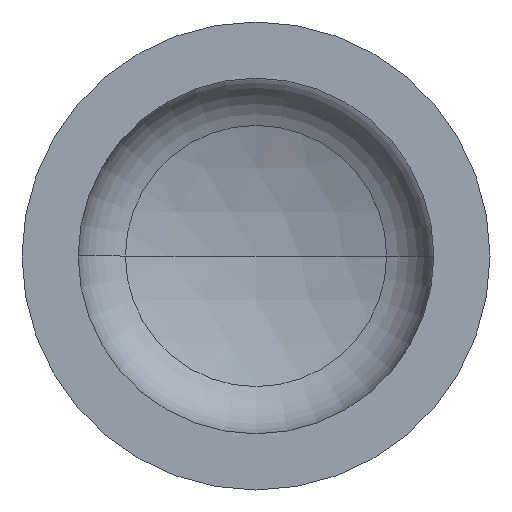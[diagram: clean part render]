
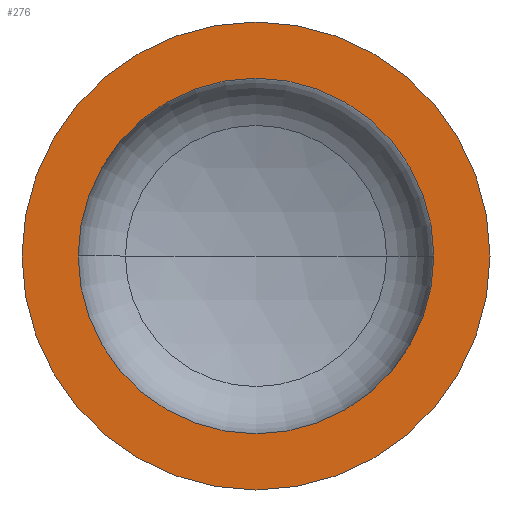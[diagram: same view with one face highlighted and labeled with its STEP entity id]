
A CAD part, front view. The second image highlights one B-rep face of the part: STEP entity #276.
In plain terms, the highlighted planar face has unit normal (0, -1, 0).
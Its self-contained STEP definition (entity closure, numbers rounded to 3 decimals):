
#1 = FACE_BOUND ( 'NONE', #34, .T. ) ;
#4 = EDGE_LOOP ( 'NONE', ( #87, #57 ) ) ;
#17 = ORIENTED_EDGE ( 'NONE', *, *, #257, .F. ) ;
#21 = ORIENTED_EDGE ( 'NONE', *, *, #411, .F. ) ;
#25 = VERTEX_POINT ( 'NONE', #371 ) ;
#34 = EDGE_LOOP ( 'NONE', ( #21, #17 ) ) ;
#57 = ORIENTED_EDGE ( 'NONE', *, *, #391, .T. ) ;
#65 = AXIS2_PLACEMENT_3D ( 'NONE', #112, #130, #133 ) ;
#80 = AXIS2_PLACEMENT_3D ( 'NONE', #129, #197, #321 ) ;
#81 = VERTEX_POINT ( 'NONE', #231 ) ;
#87 = ORIENTED_EDGE ( 'NONE', *, *, #364, .T. ) ;
#95 = VERTEX_POINT ( 'NONE', #245 ) ;
#96 = VERTEX_POINT ( 'NONE', #248 ) ;
#102 = AXIS2_PLACEMENT_3D ( 'NONE', #116, #118, #143 ) ;
#112 = CARTESIAN_POINT ( 'NONE',  ( -500., 0., 0. ) ) ;
#116 = CARTESIAN_POINT ( 'NONE',  ( 0., 0., 0. ) ) ;
#118 = DIRECTION ( 'NONE',  ( 0., -1., 0. ) ) ;
#125 = CARTESIAN_POINT ( 'NONE',  ( 0., 0., 0. ) ) ;
#128 = DIRECTION ( 'NONE',  ( 0., -1., 0. ) ) ;
#129 = CARTESIAN_POINT ( 'NONE',  ( 0., 0., 0. ) ) ;
#130 = DIRECTION ( 'NONE',  ( 0., 1., 0. ) ) ;
#133 = DIRECTION ( 'NONE',  ( -1., 0., 0. ) ) ;
#136 = DIRECTION ( 'NONE',  ( 1., 0., 0. ) ) ;
#143 = DIRECTION ( 'NONE',  ( 1., 0., 0. ) ) ;
#146 = FACE_OUTER_BOUND ( 'NONE', #4, .T. ) ;
#193 = CIRCLE ( 'NONE', #327, 500. ) ;
#197 = DIRECTION ( 'NONE',  ( 0., -1., 0. ) ) ;
#215 = CIRCLE ( 'NONE', #80, 500. ) ;
#231 = CARTESIAN_POINT ( 'NONE',  ( 500., 0., 0. ) ) ;
#236 = CIRCLE ( 'NONE', #102, 380. ) ;
#240 = CARTESIAN_POINT ( 'NONE',  ( 0., 0., 0. ) ) ;
#245 = CARTESIAN_POINT ( 'NONE',  ( 380., 0., 0. ) ) ;
#248 = CARTESIAN_POINT ( 'NONE',  ( -500., 0., 0. ) ) ;
#257 = EDGE_CURVE ( 'NONE', #25, #95, #236, .T. ) ;
#268 = DIRECTION ( 'NONE',  ( 1., 0., 0. ) ) ;
#276 = ADVANCED_FACE ( 'NONE', ( #1, #146 ), #404, .F. ) ;
#321 = DIRECTION ( 'NONE',  ( 1., 0., 0. ) ) ;
#327 = AXIS2_PLACEMENT_3D ( 'NONE', #240, #396, #268 ) ;
#348 = AXIS2_PLACEMENT_3D ( 'NONE', #125, #128, #136 ) ;
#364 = EDGE_CURVE ( 'NONE', #81, #96, #215, .T. ) ;
#371 = CARTESIAN_POINT ( 'NONE',  ( -380., 0., 0. ) ) ;
#384 = CIRCLE ( 'NONE', #348, 380. ) ;
#391 = EDGE_CURVE ( 'NONE', #96, #81, #193, .T. ) ;
#396 = DIRECTION ( 'NONE',  ( 0., -1., 0. ) ) ;
#404 = PLANE ( 'NONE',  #65 ) ;
#411 = EDGE_CURVE ( 'NONE', #95, #25, #384, .T. ) ;
